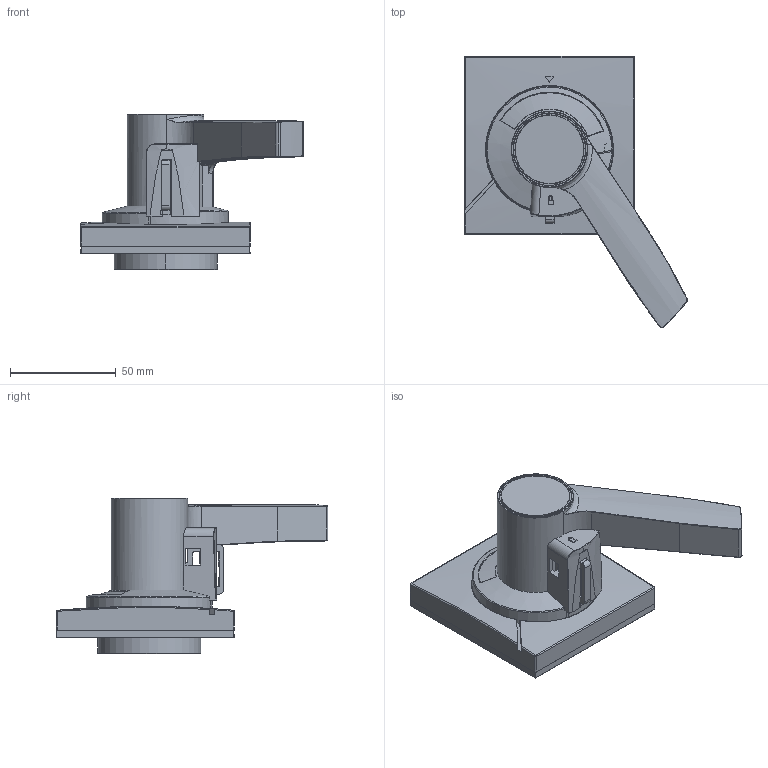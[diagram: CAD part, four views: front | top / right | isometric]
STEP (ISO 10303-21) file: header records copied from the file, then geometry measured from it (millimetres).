
FILE_DESCRIPTION (( 'STEP AP214' ), '1' );
FILE_NAME ('400???? 1 .STEP', '2025-11-25T06:35:08', ( '' ), ( '' ), 'SwSTEP 2.0', 'SolidWorks 2024', '' );
FILE_SCHEMA (( 'AUTOMOTIVE_DESIGN' ));
Length unit declared in the file: millimetre
Products named in the file (2): 400手操柄新 1 ; 400手操柄新
Assembly tree (1 placements, depth 2):
  400手操柄新 1 
    400手操柄新
Bounding box: 105.04 x 128.1 x 73.15 mm (x, y, z)
Surface area: 111766.9 mm2 (no closed solid volume)
Topology: 0 solids, 9 shells, 1404 faces, 3735 edges, 2431 vertices
Faces by surface type: plane 829, cylinder 427, cone 53, torus 53, bspline 32, sphere 10
Entity records: 57490 total; most frequent: CARTESIAN_POINT 26334, ORIENTED_EDGE 7454, DIRECTION 4913, EDGE_CURVE 3727, VERTEX_POINT 2429, B_SPLINE_CURVE_WITH_KNOTS 2122, AXIS2_PLACEMENT_3D 1951, EDGE_LOOP 1530
